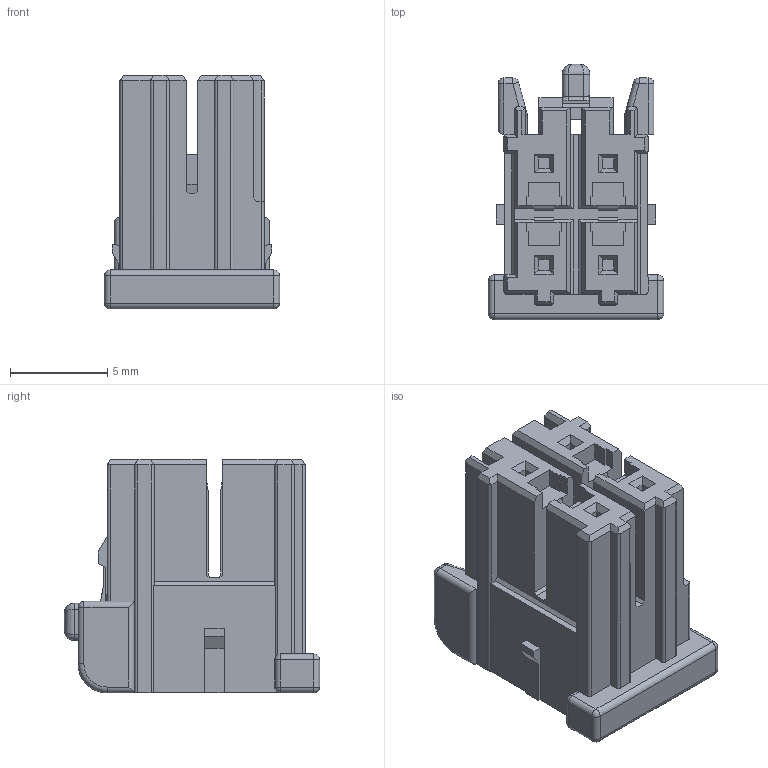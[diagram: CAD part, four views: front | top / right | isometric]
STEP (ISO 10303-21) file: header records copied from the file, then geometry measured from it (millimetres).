
FILE_DESCRIPTION((''),'2;1');
FILE_NAME('C-2-1971905-2','2017-02-13T',('workeradm'),('Tyco Electronics Ltd.'),'CREO PARAMETRIC BY PTC INC, 2016050','CREO PARAMETRIC BY PTC INC, 2016050','');
FILE_SCHEMA(('AUTOMOTIVE_DESIGN { 1 0 10303 214 1 1 1 1 }'));
Length unit declared in the file: millimetre
Products named in the file (1): C-2-1971905-2
Bounding box: 9 x 13.1 x 12 mm (x, y, z)
Volume: 679.1 mm3; surface area: 947.5 mm2
Topology: 1 solids, 1 shells, 351 faces, 917 edges, 574 vertices
Faces by surface type: plane 267, cylinder 62, sphere 12, bspline 8, torus 2
Entity records: 11662 total; most frequent: CARTESIAN_POINT 3132, ORIENTED_EDGE 1834, DIRECTION 1628, EDGE_CURVE 917, VECTOR 768, LINE 768, VERTEX_POINT 574, AXIS2_PLACEMENT_3D 430
